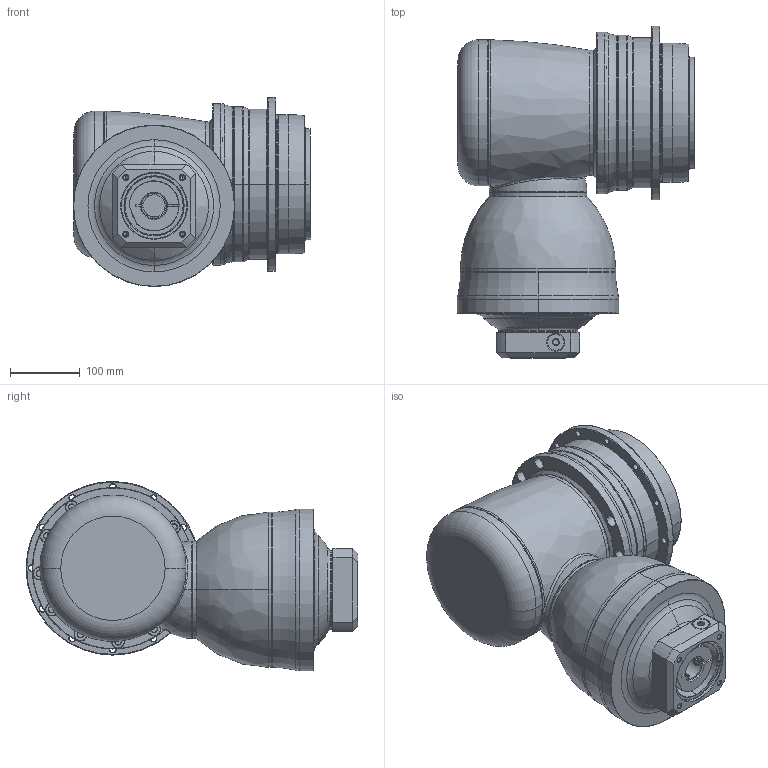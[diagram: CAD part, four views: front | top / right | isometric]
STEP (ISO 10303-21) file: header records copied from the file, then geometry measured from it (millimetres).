
FILE_DESCRIPTION((''),'2;1');
FILE_NAME('AHKB200_3ST_32-P0409700101_ASM','2016-12-14T',('d01943'),(''),'PRO/ENGINEER BY PARAMETRIC TECHNOLOGY CORPORATION, 2008410','PRO/ENGINEER BY PARAMETRIC TECHNOLOGY CORPORATION, 2008410','');
FILE_SCHEMA(('CONFIG_CONTROL_DESIGN'));
Length unit declared in the file: millimetre
Products named in the file (12): P1008600002; P1802600011; P0278600003; P0359600002; P1315600001; P1007600001; P1317600201; P0409700101; P0503700010; P0912502001; 21711418017; AHKB200_3ST_32-P0409700101_ASM
Assembly tree (11 placements, depth 2):
  AHKB200_3ST_32-P0409700101_ASM
    P1008600002
    P1802600011
    P0278600003
    P0359600002
    P1315600001
    P1007600001
    P1317600201
    P0409700101
    P0503700010
    P0912502001
    21711418017
Bounding box: 341 x 476.75 x 271.75 mm (x, y, z)
Volume: 13614690 mm3; surface area: 1142898.7 mm2
Topology: 12 solids, 12 shells, 993 faces, 2273 edges, 1306 vertices
Faces by surface type: cylinder 356, cone 332, plane 136, torus 128, bspline 39, sphere 2
Entity records: 34053 total; most frequent: CARTESIAN_POINT 11298, DIRECTION 5240, ORIENTED_EDGE 4358, AXIS2_PLACEMENT_3D 2240, EDGE_CURVE 2179, VERTEX_POINT 1306, CIRCLE 1263, EDGE_LOOP 1151
